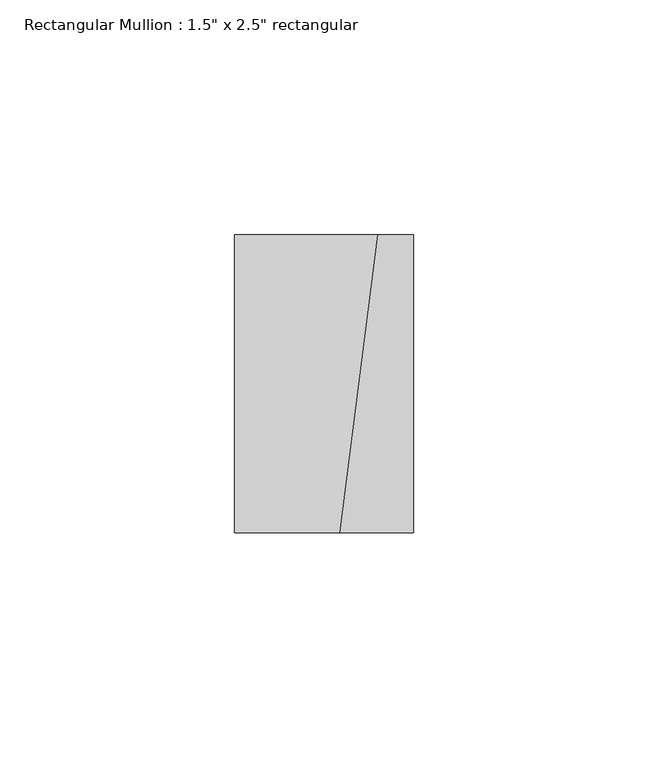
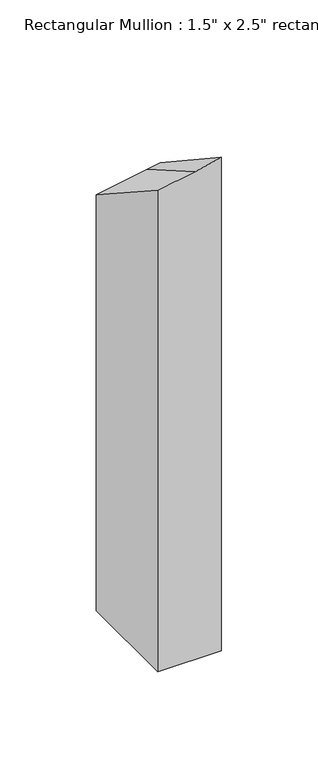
"""IFC4 building model written with IfcOpenShell, lengths in millimetres: member geometry."""

from ifc_helpers import new_model, si_unit, origin, place, context, project, spatial, faceted_brep, source, transform, mapped, element, save


def member_30c93c50(model_context):
    return source(origin(), model_context, "Body", "Brep", [
        faceted_brep([(19.05, 31.75, -325.7288394), (19.05, -31.75, -325.7288394), (-19.05, -31.75, -325.7288394), (-19.05, 31.75, -325.7288394), (-19.05, 31.75, -62.1887235), (11.5122192, 31.75, -56.994829), (19.05, 31.75, -55.2277263), (-19.05, -31.75, -20.8312467), (19.05, -31.75, -13.3494178), (3.4357805, -31.75, -17.0099021)], [[[0, 1, 2, 3]], [[4, 5, 6, 0, 3]], [[7, 4, 3, 2]], [[8, 9, 7, 2, 1]], [[6, 8, 1, 0]], [[6, 5, 9, 8]], [[5, 4, 7, 9]]]),
    ])


if __name__ == "__main__":
    model = new_model("IFC4")
    model_context = context("Model", 3, world=origin())
    ifc_project = project(units=[si_unit("LENGTHUNIT", "METRE", prefix="MILLI")], contexts=[model_context])
    site = spatial("IfcSite", under=ifc_project)
    building = spatial("IfcBuilding", under=site)
    placement = place(None, origin())
    member_shape = member_30c93c50(model_context)
    element("IfcMember", 1, ObjectType="Rectangular Mullion : 1.5\" x 2.5\" rectangular", at=placement, inside=building, context=model_context, shape_type="MappedRepresentation", body=[
        mapped(member_shape, transform((0.0, 0.0, 0.0), x_axis=(1.0, 0.0, 0.0), y_axis=(0.0, 1.0, 0.0), z_axis=(0.0, 0.0, 1.0))),
    ])
    save(model, "model.ifc")
